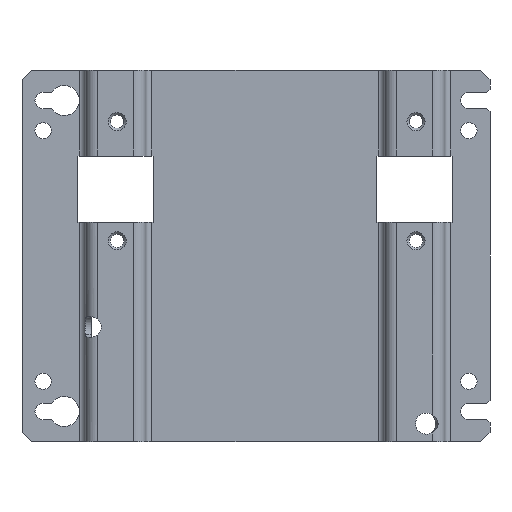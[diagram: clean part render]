
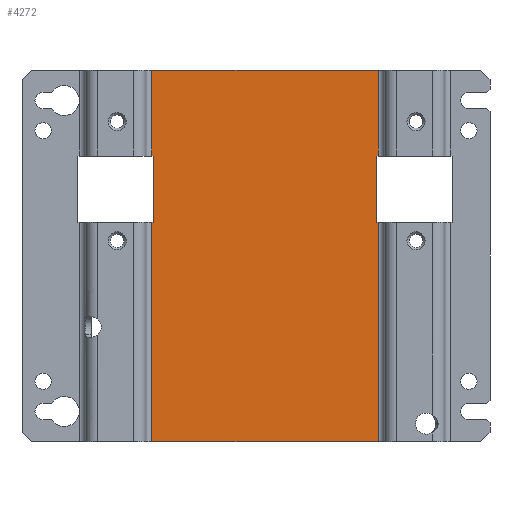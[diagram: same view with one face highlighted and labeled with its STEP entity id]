
A CAD part, left-side view. The second image highlights one B-rep face of the part: STEP entity #4272.
In plain terms, the highlighted planar face has unit normal (-1, 0, 0).
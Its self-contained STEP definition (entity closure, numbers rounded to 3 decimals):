
#761=CARTESIAN_POINT('',(10.5,-33.0,-61.5));
#762=VERTEX_POINT('',#761);
#770=CARTESIAN_POINT('',(10.5,42.0,-61.5));
#771=VERTEX_POINT('',#770);
#772=CARTESIAN_POINT('',(10.5,42.0,-61.5));
#773=DIRECTION('',(0.0,-1.0,0.0));
#774=VECTOR('',#773,75.0);
#775=LINE('',#772,#774);
#776=EDGE_CURVE('',#771,#762,#775,.T.);
#1288=CARTESIAN_POINT('',(10.5,42.0,61.5));
#1289=VERTEX_POINT('',#1288);
#1297=CARTESIAN_POINT('',(10.5,-33.0,61.5));
#1298=VERTEX_POINT('',#1297);
#1299=CARTESIAN_POINT('',(10.5,-33.0,61.5));
#1300=DIRECTION('',(0.0,1.0,0.0));
#1301=VECTOR('',#1300,75.0);
#1302=LINE('',#1299,#1301);
#1303=EDGE_CURVE('',#1298,#1289,#1302,.T.);
#3085=CARTESIAN_POINT('',(10.5,41.5,33.1));
#3086=VERTEX_POINT('',#3085);
#3087=CARTESIAN_POINT('',(10.5,41.5,11.1));
#3088=VERTEX_POINT('',#3087);
#3089=CARTESIAN_POINT('',(10.5,41.5,33.1));
#3090=DIRECTION('',(0.0,0.0,-1.0));
#3091=VECTOR('',#3090,22.);
#3092=LINE('',#3089,#3091);
#3093=EDGE_CURVE('',#3086,#3088,#3092,.T.);
#3200=CARTESIAN_POINT('',(10.5,42.0,33.1));
#3201=VERTEX_POINT('',#3200);
#3202=CARTESIAN_POINT('',(10.5,42.0,33.1));
#3203=DIRECTION('',(0.0,-1.0,0.0));
#3204=VECTOR('',#3203,0.5);
#3205=LINE('',#3202,#3204);
#3206=EDGE_CURVE('',#3201,#3086,#3205,.T.);
#3316=CARTESIAN_POINT('',(10.5,42.0,11.1));
#3317=VERTEX_POINT('',#3316);
#3325=CARTESIAN_POINT('',(10.5,41.5,11.1));
#3326=DIRECTION('',(0.0,1.0,0.0));
#3327=VECTOR('',#3326,0.5);
#3328=LINE('',#3325,#3327);
#3329=EDGE_CURVE('',#3088,#3317,#3328,.T.);
#3474=CARTESIAN_POINT('',(10.5,-33.0,33.1));
#3475=VERTEX_POINT('',#3474);
#3483=CARTESIAN_POINT('',(10.5,-32.5,33.1));
#3484=VERTEX_POINT('',#3483);
#3485=CARTESIAN_POINT('',(10.5,-32.5,33.1));
#3486=DIRECTION('',(0.0,-1.0,0.0));
#3487=VECTOR('',#3486,0.5);
#3488=LINE('',#3485,#3487);
#3489=EDGE_CURVE('',#3484,#3475,#3488,.T.);
#3599=CARTESIAN_POINT('',(10.5,-32.5,11.1));
#3600=VERTEX_POINT('',#3599);
#3601=CARTESIAN_POINT('',(10.5,-32.5,11.1));
#3602=DIRECTION('',(0.0,0.0,1.0));
#3603=VECTOR('',#3602,22.);
#3604=LINE('',#3601,#3603);
#3605=EDGE_CURVE('',#3600,#3484,#3604,.T.);
#3679=CARTESIAN_POINT('',(10.5,-33.0,11.1));
#3680=VERTEX_POINT('',#3679);
#3681=CARTESIAN_POINT('',(10.5,-33.0,11.1));
#3682=DIRECTION('',(0.0,1.0,0.0));
#3683=VECTOR('',#3682,0.5);
#3684=LINE('',#3681,#3683);
#3685=EDGE_CURVE('',#3680,#3600,#3684,.T.);
#3942=CARTESIAN_POINT('',(10.5,42.0,-61.5));
#3943=DIRECTION('',(0.0,0.0,1.0));
#3944=VECTOR('',#3943,72.6);
#3945=LINE('',#3942,#3944);
#3946=EDGE_CURVE('',#771,#3317,#3945,.T.);
#3957=CARTESIAN_POINT('',(10.5,42.0,33.1));
#3958=DIRECTION('',(0.0,0.0,1.0));
#3959=VECTOR('',#3958,28.4);
#3960=LINE('',#3957,#3959);
#3961=EDGE_CURVE('',#3201,#1289,#3960,.T.);
#4243=CARTESIAN_POINT('',(10.5,-33.0,-61.5));
#4244=DIRECTION('',(-1.0,0.0,0.0));
#4245=DIRECTION('',(0.0,0.0,1.0));
#4246=AXIS2_PLACEMENT_3D('',#4243,#4244,#4245);
#4247=PLANE('',#4246);
#4248=ORIENTED_EDGE('',*,*,#3206,.T.);
#4249=ORIENTED_EDGE('',*,*,#3093,.T.);
#4250=ORIENTED_EDGE('',*,*,#3329,.T.);
#4251=ORIENTED_EDGE('',*,*,#3946,.F.);
#4252=ORIENTED_EDGE('',*,*,#776,.T.);
#4253=CARTESIAN_POINT('',(10.5,-33.0,-61.5));
#4254=DIRECTION('',(0.0,0.0,1.0));
#4255=VECTOR('',#4254,72.6);
#4256=LINE('',#4253,#4255);
#4257=EDGE_CURVE('',#762,#3680,#4256,.T.);
#4258=ORIENTED_EDGE('',*,*,#4257,.T.);
#4259=ORIENTED_EDGE('',*,*,#3685,.T.);
#4260=ORIENTED_EDGE('',*,*,#3605,.T.);
#4261=ORIENTED_EDGE('',*,*,#3489,.T.);
#4262=CARTESIAN_POINT('',(10.5,-33.0,33.1));
#4263=DIRECTION('',(0.0,0.0,1.0));
#4264=VECTOR('',#4263,28.4);
#4265=LINE('',#4262,#4264);
#4266=EDGE_CURVE('',#3475,#1298,#4265,.T.);
#4267=ORIENTED_EDGE('',*,*,#4266,.T.);
#4268=ORIENTED_EDGE('',*,*,#1303,.T.);
#4269=ORIENTED_EDGE('',*,*,#3961,.F.);
#4270=EDGE_LOOP('',(#4248,#4249,#4250,#4251,#4252,#4258,#4259,#4260,#4261,#4267,#4268,#4269));
#4271=FACE_OUTER_BOUND('',#4270,.T.);
#4272=ADVANCED_FACE('',(#4271),#4247,.T.);
